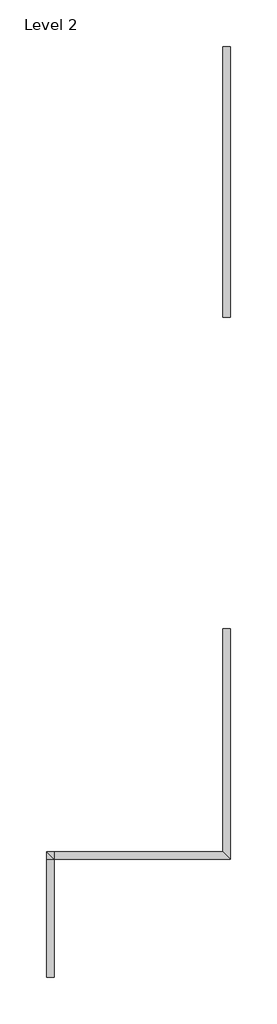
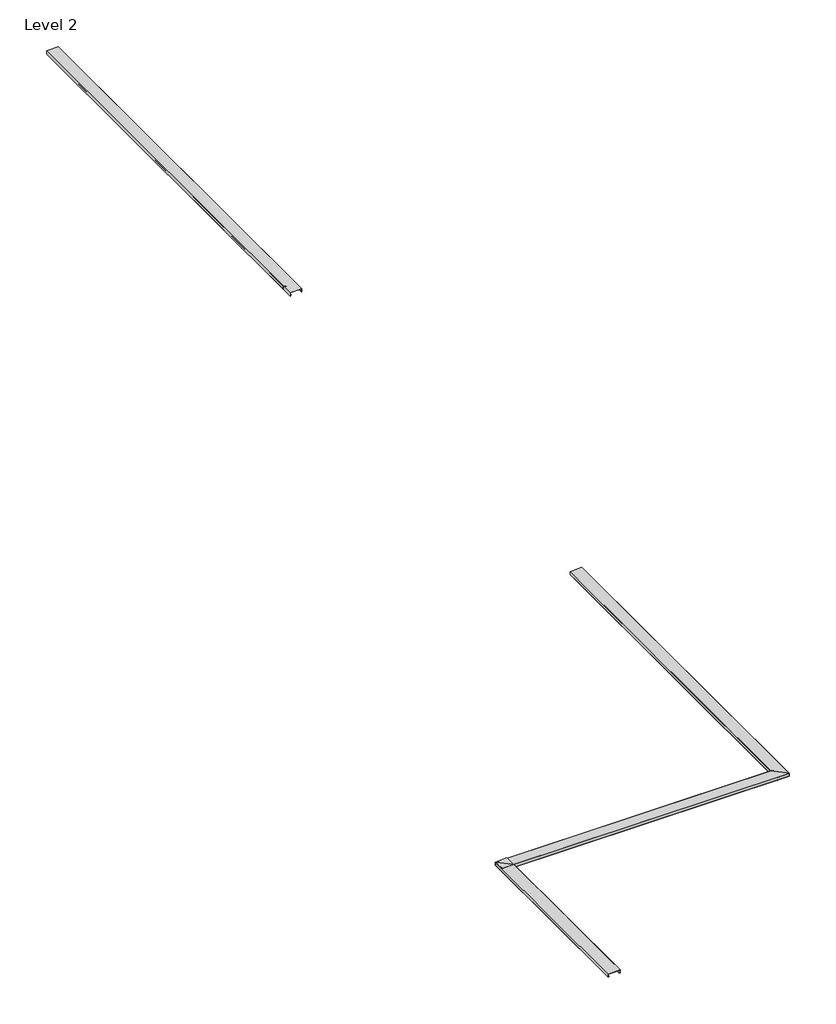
# One storey, incomplete: 4 beams.
"""IFC4 building model written with IfcOpenShell, lengths in millimetres."""

from ifc_helpers import new_model, si_unit, origin, place, context, project, spatial, faceted_brep, element, save

model = new_model("IFC4")

# Units and contexts
model_context = context("Model", 3, world=origin())
ifc_project = project(units=[si_unit("LENGTHUNIT", "METRE", prefix="MILLI")], contexts=[model_context])

# Site, building, storey
site = spatial("IfcSite", under=ifc_project)
building = spatial("IfcBuilding", under=site)
storey = spatial("IfcBuildingStorey", under=building, Name="Level 2", Elevation=6150.0)

# Beams
placement = place(None, origin())
element("IfcBeam", 1, ObjectType="QO-H-03_01 Top parapet : Top parapet", at=placement, inside=storey, context=model_context, shape_type="Brep", body=[
    faceted_brep([(-6547.0000002, -14248.6, 6127.6), (-6529.4000002, -14248.6, 6127.6), (-6529.4000002, -14248.6, 6200.3592421), (-6804.6000002, -14248.6, 6185.9366213), (-6804.6000002, -14248.6, 6112.2818925), (-6783.6051733, -14248.6, 6133.2767193), (-6783.0394879, -14248.6, 6132.7110339), (-6805.4000002, -14248.6, 6110.3505217), (-6805.4000002, -14248.6, 6186.6957929), (-6528.6000002, -14248.6, 6201.2022662), (-6528.6000002, -14248.6, 6125.6), (-6547.0000002, -14248.6, 6125.6), (-6547.0000002, -18892.5013277, 6127.6), (-6547.0000002, -18892.5013277, 6125.6), (-6528.6000002, -18892.5013277, 6125.6), (-6528.6000002, -18892.5013277, 6201.2022662), (-6805.4000002, -18892.5013277, 6186.6957929), (-6805.4000002, -18892.5013277, 6110.3505217), (-6783.0394879, -18892.5013277, 6132.7110339), (-6783.6051733, -18892.5013277, 6133.2767193), (-6804.6000002, -18892.5013277, 6112.2818925), (-6804.6000002, -18892.5013277, 6185.9366213), (-6529.4000002, -18892.5013277, 6200.3592421), (-6529.4000002, -18892.5013277, 6127.6)], [[[0, 1, 2, 3, 4, 5, 6, 7, 8, 9, 10, 11]], [[12, 13, 14, 15, 16, 17, 18, 19, 20, 21, 22, 23]], [[1, 0, 12, 23]], [[2, 1, 23, 22]], [[3, 2, 22, 21]], [[4, 3, 21, 20]], [[5, 4, 20, 19]], [[6, 5, 19, 18]], [[7, 6, 18, 17]], [[8, 7, 17, 16]], [[9, 8, 16, 15]], [[10, 9, 15, 14]], [[11, 10, 14, 13]], [[0, 11, 13, 12]]]),
    faceted_brep([(-6547.0000002, -18892.5013277, 6127.6), (-6547.0000002, -18892.5013277, 6125.6), (-6528.6000002, -18892.5013277, 6125.6), (-6528.6000002, -18892.5013277, 6201.2022662), (-6805.4000002, -18892.5013277, 6186.6957929), (-6805.4000002, -18892.5013277, 6110.3505217), (-6783.0394879, -18892.5013277, 6132.7110339), (-6783.6051733, -18892.5013277, 6133.2767193), (-6804.6000002, -18892.5013277, 6112.2818925), (-6804.6000002, -18892.5013277, 6185.9366213), (-6529.4000002, -18892.5013277, 6200.3592421), (-6529.4000002, -18892.5013277, 6127.6), (-6547.0000002, -14507.0, 6125.6), (-6547.0000002, -14507.0, 6127.6), (-6528.6000002, -14525.4, 6125.6), (-6528.6000002, -14525.4, 6201.2022662), (-6805.4000002, -14248.6, 6186.6957929), (-6805.4000002, -14248.6, 6110.3505217), (-6783.0394879, -14270.9605122, 6132.7110339), (-6783.6051733, -14270.3948268, 6133.2767193), (-6804.6000002, -14249.4, 6112.2818925), (-6804.6000002, -14249.4, 6185.9366213), (-6529.4000002, -14524.6, 6200.3592421), (-6529.4000002, -14524.6, 6127.6)], [[[0, 1, 2, 3, 4, 5, 6, 7, 8, 9, 10, 11]], [[12, 1, 0, 13]], [[14, 2, 1, 12]], [[15, 3, 2, 14]], [[16, 4, 3, 15]], [[17, 5, 4, 16]], [[18, 6, 5, 17]], [[19, 7, 6, 18]], [[20, 8, 7, 19]], [[21, 9, 8, 20]], [[22, 10, 9, 21]], [[23, 11, 10, 22]], [[13, 0, 11, 23]], [[13, 23, 22, 21, 20, 19, 18, 17, 16, 15, 14, 12]]]),
])
element("IfcBeam", 2, ObjectType="QO-H-03_01 Top parapet : Top parapet", at=placement, inside=storey, context=model_context, shape_type="Brep", body=[
    faceted_brep([(0.0, -14507.0, 6127.6), (0.0, -14524.6, 6127.6), (0.0, -14524.6, 6200.3592421), (0.0, -14249.4, 6185.9366213), (0.0, -14249.4, 6112.2818925), (0.0, -14270.3948268, 6133.2767193), (0.0, -14270.9605122, 6132.7110339), (0.0, -14248.6, 6110.3505217), (0.0, -14248.6, 6186.6957929), (0.0, -14525.4, 6201.2022662), (0.0, -14525.4, 6125.6), (0.0, -14507.0, 6125.6), (-6804.6000002, -14507.0, 6127.6), (-6804.6000002, -14507.0, 6125.6), (-6804.6000002, -14525.4, 6125.6), (-6804.6000002, -14525.4, 6201.2022662), (-6804.6000002, -14248.6, 6186.6957929), (-6804.6000002, -14248.6, 6110.3505217), (-6804.6000002, -14270.9605122, 6132.7110339), (-6804.6000002, -14270.3948268, 6133.2767193), (-6804.6000002, -14249.4, 6112.2818925), (-6804.6000002, -14249.4, 6185.9366213), (-6804.6000002, -14524.6, 6200.3592421), (-6804.6000002, -14524.6, 6127.6)], [[[0, 1, 2, 3, 4, 5, 6, 7, 8, 9, 10, 11]], [[12, 13, 14, 15, 16, 17, 18, 19, 20, 21, 22, 23]], [[1, 0, 12, 23]], [[2, 1, 23, 22]], [[3, 2, 22, 21]], [[4, 3, 21, 20]], [[5, 4, 20, 19]], [[6, 5, 19, 18]], [[7, 6, 18, 17]], [[8, 7, 17, 16]], [[9, 8, 16, 15]], [[10, 9, 15, 14]], [[11, 10, 14, 13]], [[0, 11, 13, 12]]]),
    faceted_brep([(0.0, -14525.000007, 6201.1813035), (0.0, -14525.4, 6201.2022662), (0.0, -14525.4, 6125.6), (0.0, -14525.000007, 6125.6), (-276.400007, -14248.6, 6186.6957929), (-6804.6000002, -14248.6, 6186.6957929), (-6804.6000002, -14525.4, 6201.2022662), (-6804.6000002, -14525.4, 6125.6), (-6804.6000002, -14507.0, 6125.6), (-18.000007, -14507.0, 6125.6), (-6804.6000002, -14507.0, 6127.6), (-6804.6000002, -14248.6, 6110.3505217), (-6804.6000002, -14270.9605122, 6132.7110339), (-6804.6000002, -14270.3948268, 6133.2767193), (-6804.6000002, -14249.4, 6112.2818925), (-6804.6000002, -14249.4, 6185.9366213), (-6804.6000002, -14524.6, 6200.3592421), (-6804.6000002, -14524.6, 6127.6), (-18.000007, -14507.0, 6127.6), (-276.400007, -14248.6, 6110.3505217), (-254.0394948, -14270.9605122, 6132.7110339), (-254.6051802, -14270.3948268, 6133.2767193), (-275.600007, -14249.4, 6112.2818925), (-275.600007, -14249.4, 6185.9366213), (-0.400007, -14524.6, 6200.3592421), (-0.400007, -14524.6, 6127.6)], [[[0, 1, 2, 3]], [[1, 0, 4, 5, 6]], [[2, 1, 6, 7]], [[3, 2, 7, 8, 9]], [[10, 8, 7, 6, 5, 11, 12, 13, 14, 15, 16, 17]], [[9, 8, 10, 18]], [[19, 11, 5, 4]], [[20, 12, 11, 19]], [[21, 13, 12, 20]], [[22, 14, 13, 21]], [[23, 15, 14, 22]], [[24, 16, 15, 23]], [[25, 17, 16, 24]], [[18, 10, 17, 25]], [[0, 3, 9, 18, 25, 24, 23, 22, 21, 20, 19, 4]]]),
    faceted_brep([(0.0, -14525.000007, 6201.1813035), (0.0, -14525.4, 6201.2022662), (0.0, -14525.4, 6125.6), (0.0, -14525.000007, 6125.6), (-276.400007, -14248.6, 6186.6957929), (-6804.6000002, -14248.6, 6186.6957929), (-6804.6000002, -14249.4, 6186.7377191), (-6528.6000002, -14525.4, 6201.2022662), (-6528.6000002, -14525.4, 6125.6), (-6547.0000002, -14507.0, 6125.6), (-18.000007, -14507.0, 6125.6), (-18.000007, -14507.0, 6127.6), (-0.400007, -14524.6, 6127.6), (-0.400007, -14524.6, 6200.3592421), (-275.600007, -14249.4, 6185.9366213), (-275.600007, -14249.4, 6112.2818925), (-254.6051802, -14270.3948268, 6133.2767193), (-254.0394948, -14270.9605122, 6132.7110339), (-276.400007, -14248.6, 6110.3505217), (-6804.6000002, -14248.6, 6110.3505217), (-6804.6000002, -14249.4, 6111.1505217), (-6804.6000002, -14249.4, 6112.2818925), (-6804.6000002, -14249.4, 6185.9366213), (-6547.0000002, -14507.0, 6127.6), (-6783.0394879, -14270.9605122, 6132.7110339), (-6529.4000002, -14524.6, 6127.6), (-6783.6051733, -14270.3948268, 6133.2767193), (-6529.4000002, -14524.6, 6200.3592421)], [[[0, 1, 2, 3]], [[1, 0, 4, 5, 6, 7]], [[2, 1, 7, 8]], [[3, 2, 8, 9, 10]], [[0, 3, 10, 11, 12, 13, 14, 15, 16, 17, 18, 4]], [[18, 19, 5, 4]], [[6, 5, 19, 20, 21, 22]], [[10, 9, 23, 11]], [[17, 24, 20, 19, 18]], [[14, 22, 21, 15]], [[11, 23, 25, 12]], [[16, 26, 24, 17]], [[15, 21, 26, 16]], [[13, 27, 22, 14]], [[12, 25, 27, 13]], [[7, 6, 22, 27, 25, 23, 9, 8]], [[21, 20, 24, 26]]]),
])
element("IfcBeam", 3, ObjectType="QO-H-03_01 Top parapet : Top parapet", at=placement, inside=storey, context=model_context, shape_type="Brep", body=[
    faceted_brep([(-18.0, -6012.8, 6127.6), (-0.4, -6012.8, 6127.6), (-0.4, -6012.8, 6200.3592421), (-275.6, -6012.8, 6185.9366213), (-275.6, -6012.8, 6112.2818925), (-254.6051732, -6012.8, 6133.2767193), (-254.0394878, -6012.8, 6132.7110339), (-276.4, -6012.8, 6110.3505217), (-276.4, -6012.8, 6186.6957929), (0.4, -6012.8, 6201.2022662), (0.4, -6012.8, 6125.6), (-18.0, -6012.8, 6125.6), (-18.0, -14525.0, 6127.6), (-18.0, -14525.0, 6125.6), (0.4, -14525.0, 6125.6), (0.4, -14525.0, 6201.2022662), (-276.4, -14525.0, 6186.6957929), (-276.4, -14525.0, 6110.3505217), (-254.0394878, -14525.0, 6132.7110339), (-254.6051732, -14525.0, 6133.2767193), (-275.6, -14525.0, 6112.2818925), (-275.6, -14525.0, 6185.9366213), (-0.4, -14525.0, 6200.3592421), (-0.4, -14525.0, 6127.6)], [[[0, 1, 2, 3, 4, 5, 6, 7, 8, 9, 10, 11]], [[12, 13, 14, 15, 16, 17, 18, 19, 20, 21, 22, 23]], [[1, 0, 12, 23]], [[2, 1, 23, 22]], [[3, 2, 22, 21]], [[4, 3, 21, 20]], [[5, 4, 20, 19]], [[6, 5, 19, 18]], [[7, 6, 18, 17]], [[8, 7, 17, 16]], [[9, 8, 16, 15]], [[10, 9, 15, 14]], [[11, 10, 14, 13]], [[0, 11, 13, 12]]]),
    faceted_brep([(-18.0, -6012.8, 6127.6), (-0.4, -6012.8, 6127.6), (-0.4, -6012.8, 6200.3592421), (-275.6, -6012.8, 6185.9366213), (-275.6, -6012.8, 6112.2818925), (-254.6051732, -6012.8, 6133.2767193), (-254.0394878, -6012.8, 6132.7110339), (-276.4, -6012.8, 6110.3505217), (-276.4, -6012.8, 6186.6957929), (0.4, -6012.8, 6201.2022662), (0.4, -6012.8, 6125.6), (-18.0, -6012.8, 6125.6), (-18.0, -14507.000007, 6127.6), (-0.4, -14524.600007, 6127.6), (-0.4, -14524.600007, 6200.3592421), (-275.6, -14249.400007, 6185.9366213), (-275.6, -14249.400007, 6112.2818925), (-254.6051732, -14270.3948338, 6133.2767193), (-254.0394878, -14270.9605192, 6132.7110339), (-276.4, -14248.600007, 6110.3505217), (-276.4, -14248.600007, 6186.6957929), (-7e-06, -14525.0, 6201.1813027), (0.4, -14525.0, 6201.2022662), (0.4, -14525.0, 6125.6), (-7e-06, -14525.0, 6125.6), (-18.0, -14507.000007, 6125.6)], [[[0, 1, 2, 3, 4, 5, 6, 7, 8, 9, 10, 11]], [[1, 0, 12, 13]], [[2, 1, 13, 14]], [[3, 2, 14, 15]], [[4, 3, 15, 16]], [[5, 4, 16, 17]], [[6, 5, 17, 18]], [[7, 6, 18, 19]], [[8, 7, 19, 20]], [[9, 8, 20, 21, 22]], [[10, 9, 22, 23]], [[11, 10, 23, 24, 25]], [[0, 11, 25, 12]], [[24, 23, 22, 21]], [[24, 21, 20, 19, 18, 17, 16, 15, 14, 13, 12, 25]]]),
])
element("IfcBeam", 4, ObjectType="QO-V-03_01 Top parapet : Top parapet", at=placement, inside=storey, context=model_context, shape_type="Brep", body=[
    faceted_brep([(-18.7232512, 15489.6232512, 6141.6), (-1.1232512, 15489.6232512, 6141.6), (-1.1232512, 15489.6232512, 6214.3592421), (-276.3232512, 15489.6232512, 6199.9366213), (-276.3232512, 15489.6232512, 6126.2818925), (-255.3284244, 15489.6232512, 6147.2767193), (-254.762739, 15489.6232512, 6146.7110339), (-277.1232512, 15489.6232512, 6124.3505217), (-277.1232512, 15489.6232512, 6200.6957929), (-0.3232512, 15489.6232512, 6215.2022662), (-0.3232512, 15489.6232512, 6139.6), (-18.7232512, 15489.6232512, 6139.6), (-18.7232512, 5486.2232509, 6141.6), (-18.7232512, 5486.2232509, 6139.6), (-0.3232512, 5486.2232509, 6139.6), (-0.3232512, 5486.2232509, 6215.2022662), (-277.1232512, 5486.2232509, 6200.6957929), (-277.1232512, 5486.2232509, 6124.3505217), (-254.762739, 5486.2232509, 6146.7110339), (-255.3284244, 5486.2232509, 6147.2767193), (-276.3232512, 5486.2232509, 6126.2818925), (-276.3232512, 5486.2232509, 6199.9366213), (-1.1232512, 5486.2232509, 6214.3592421), (-1.1232512, 5486.2232509, 6141.6)], [[[0, 1, 2, 3, 4, 5, 6, 7, 8, 9, 10, 11]], [[12, 13, 14, 15, 16, 17, 18, 19, 20, 21, 22, 23]], [[1, 0, 12, 23]], [[2, 1, 23, 22]], [[3, 2, 22, 21]], [[4, 3, 21, 20]], [[5, 4, 20, 19]], [[6, 5, 19, 18]], [[7, 6, 18, 17]], [[8, 7, 17, 16]], [[9, 8, 16, 15]], [[10, 9, 15, 14]], [[11, 10, 14, 13]], [[0, 11, 13, 12]]]),
    faceted_brep([(-18.7232512, 15489.6232512, 6141.6), (-1.1232512, 15489.6232512, 6141.6), (-1.1232512, 15489.6232512, 6214.3592421), (-276.3232512, 15489.6232512, 6199.9366213), (-276.3232512, 15489.6232512, 6126.2818925), (-255.3284244, 15489.6232512, 6147.2767193), (-254.762739, 15489.6232512, 6146.7110339), (-277.1232512, 15489.6232512, 6124.3505217), (-277.1232512, 15489.6232512, 6200.6957929), (-0.3232512, 15489.6232512, 6215.2022662), (-0.3232512, 15489.6232512, 6139.6), (-18.7232512, 15489.6232512, 6139.6), (-18.7232512, 5504.6232509, 6141.6), (-1.1232512, 5487.0232509, 6141.6), (-1.1232512, 5487.0232509, 6214.3592421), (-276.3232512, 5762.2232509, 6199.9366213), (-276.3232512, 5762.2232509, 6126.2818925), (-255.3284244, 5741.2284241, 6147.2767193), (-254.762739, 5740.6627386, 6146.7110339), (-277.1232512, 5763.0232509, 6124.3505217), (-277.1232512, 5763.0232509, 6200.6957929), (-0.3232512, 5486.2232509, 6215.2022662), (-0.3232512, 5486.2232509, 6139.6), (-18.7232512, 5504.6232509, 6139.6)], [[[0, 1, 2, 3, 4, 5, 6, 7, 8, 9, 10, 11]], [[1, 0, 12, 13]], [[2, 1, 13, 14]], [[3, 2, 14, 15]], [[4, 3, 15, 16]], [[5, 4, 16, 17]], [[6, 5, 17, 18]], [[7, 6, 18, 19]], [[8, 7, 19, 20]], [[9, 8, 20, 21]], [[10, 9, 21, 22]], [[11, 10, 22, 23]], [[0, 11, 23, 12]], [[13, 12, 23, 22, 21, 20, 19, 18, 17, 16, 15, 14]]]),
])

save(model, "model.ifc")
